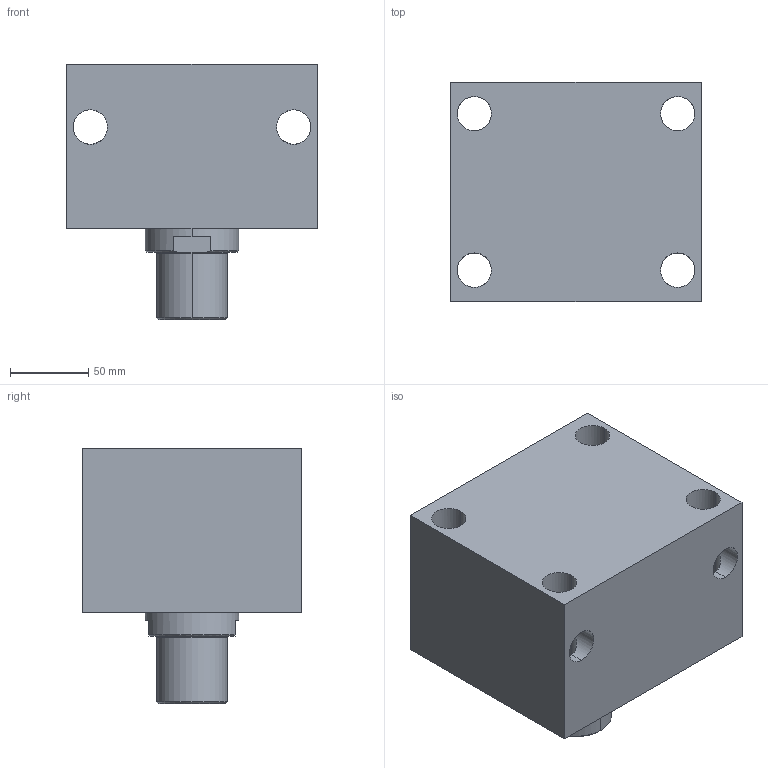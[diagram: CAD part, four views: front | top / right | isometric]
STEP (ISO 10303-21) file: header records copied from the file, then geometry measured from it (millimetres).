
FILE_DESCRIPTION (( 'STEP AP203' ), '1' );
FILE_NAME ('Block cylinder B01C-925M.STEP', '2022-07-09T18:20:21', ( '' ), ( '' ), 'SwSTEP 2.0', 'SolidWorks 2017', '' );
FILE_SCHEMA (( 'CONFIG_CONTROL_DESIGN' ));
Length unit declared in the file: millimetre
Products named in the file (3): Body_ 925M_50ST; Piston _925M; Block cylinder B01C-925M
Assembly tree (2 placements, depth 2):
  Block cylinder B01C-925M
    Body_ 925M_50ST
    Piston _925M
Bounding box: 160 x 140 x 163 mm (x, y, z)
Volume: 2385626 mm3; surface area: 198189 mm2
Topology: 2 solids, 2 shells, 357 faces, 982 edges, 643 vertices
Faces by surface type: bspline 155, plane 148, cylinder 46, cone 8
Entity records: 18057 total; most frequent: CARTESIAN_POINT 9788, ORIENTED_EDGE 1956, DIRECTION 1108, EDGE_CURVE 978, VERTEX_POINT 643, VECTOR 558, LINE 558, EDGE_LOOP 397
